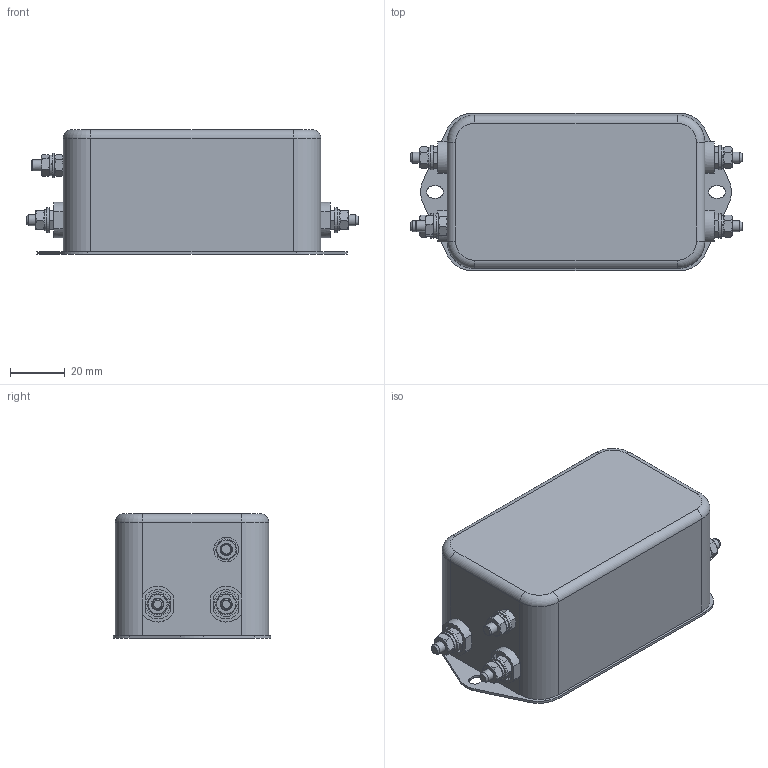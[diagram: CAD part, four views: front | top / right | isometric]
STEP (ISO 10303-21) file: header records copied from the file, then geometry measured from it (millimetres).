
FILE_DESCRIPTION((''),'2;1');
FILE_NAME('L:\INVENTOR_Projektedaten\HousingDesign\FN2020-30-08.stp','2013-02-11T11:08:31',('Samuel.Meier'),(''),'Autodesk Inventor 2010','Autodesk Inventor 2010','');
FILE_SCHEMA(('AUTOMOTIVE_DESIGN { 1 0 10303 214 1 1 1 1 }'));
Length unit declared in the file: millimetre
Products named in the file (1): FN2020-30-08
Bounding box: 121.2 x 57.5 x 45.4 mm (x, y, z)
Volume: 238340.7 mm3; surface area: 27222 mm2
Topology: 1 solids, 6 shells, 387 faces, 1047 edges, 679 vertices
Faces by surface type: plane 235, cylinder 99, cone 45, torus 4, bspline 4
Full cylindrical faces by diameter (mm): 4 x7, 4.3 x5, 9 x5
Entity records: 11837 total; most frequent: CARTESIAN_POINT 2482, ORIENTED_EDGE 1824, DIRECTION 1818, EDGE_CURVE 912, AXIS2_PLACEMENT_3D 658, VERTEX_POINT 614, EDGE_LOOP 504, VECTOR 502
